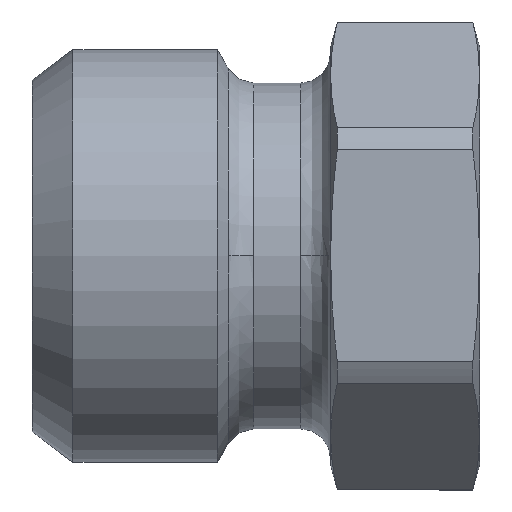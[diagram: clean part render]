
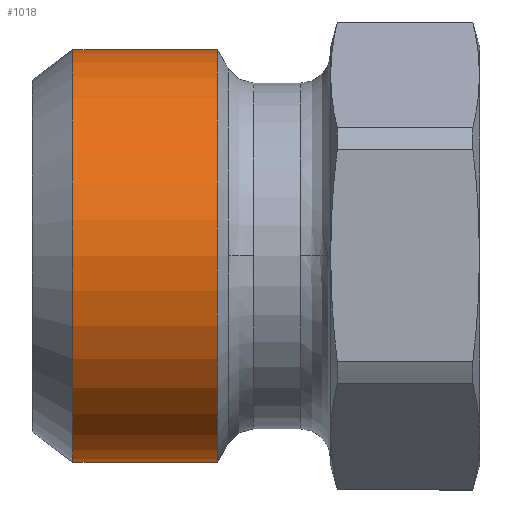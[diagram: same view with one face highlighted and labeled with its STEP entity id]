
A CAD part, top view. The second image highlights one B-rep face of the part: STEP entity #1018.
In plain terms, the highlighted cylindrical face has radius 6.925 mm (diameter 13.85 mm), a partial arc.
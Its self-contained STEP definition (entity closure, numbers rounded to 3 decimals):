
#368=CARTESIAN_POINT('',(0.,-6.925,11.14));
#369=VERTEX_POINT('',#368);
#370=CARTESIAN_POINT('',(0.,-6.925,6.3));
#371=VERTEX_POINT('',#370);
#372=CARTESIAN_POINT('',(0.,-6.925,11.14));
#373=DIRECTION('',(0.0,0.0,-1.0));
#374=VECTOR('',#373,4.84);
#375=LINE('',#372,#374);
#376=EDGE_CURVE('',#369,#371,#375,.T.);
#378=CARTESIAN_POINT('',(0.,6.925,11.14));
#379=VERTEX_POINT('',#378);
#387=CARTESIAN_POINT('',(0.,6.925,6.3));
#388=VERTEX_POINT('',#387);
#389=CARTESIAN_POINT('',(0.,6.925,6.3));
#390=DIRECTION('',(0.0,0.0,1.0));
#391=VECTOR('',#390,4.84);
#392=LINE('',#389,#391);
#393=EDGE_CURVE('',#388,#379,#392,.T.);
#894=CARTESIAN_POINT('',(0.,0.0,6.3));
#895=DIRECTION('',(0.0,0.0,-1.0));
#896=DIRECTION('',(0.0,-1.0,0.0));
#897=AXIS2_PLACEMENT_3D('',#894,#895,#896);
#898=CIRCLE('',#897,6.925);
#899=EDGE_CURVE('',#388,#371,#898,.T.);
#995=CARTESIAN_POINT('',(0.,0.,11.14));
#996=DIRECTION('',(0.0,0.0,-1.0));
#997=DIRECTION('',(0.0,-1.0,0.0));
#998=AXIS2_PLACEMENT_3D('',#995,#996,#997);
#999=CIRCLE('',#998,6.925);
#1000=EDGE_CURVE('',#379,#369,#999,.T.);
#1007=CARTESIAN_POINT('',(0.,0.,8.72));
#1008=DIRECTION('',(0.,0.,-1.0));
#1009=DIRECTION('',(0.0,-1.0,0.0));
#1010=AXIS2_PLACEMENT_3D('',#1007,#1008,#1009);
#1011=CYLINDRICAL_SURFACE('',#1010,6.925);
#1012=ORIENTED_EDGE('',*,*,#376,.T.);
#1013=ORIENTED_EDGE('',*,*,#899,.F.);
#1014=ORIENTED_EDGE('',*,*,#393,.T.);
#1015=ORIENTED_EDGE('',*,*,#1000,.T.);
#1016=EDGE_LOOP('',(#1012,#1013,#1014,#1015));
#1017=FACE_OUTER_BOUND('',#1016,.T.);
#1018=ADVANCED_FACE('',(#1017),#1011,.T.);
